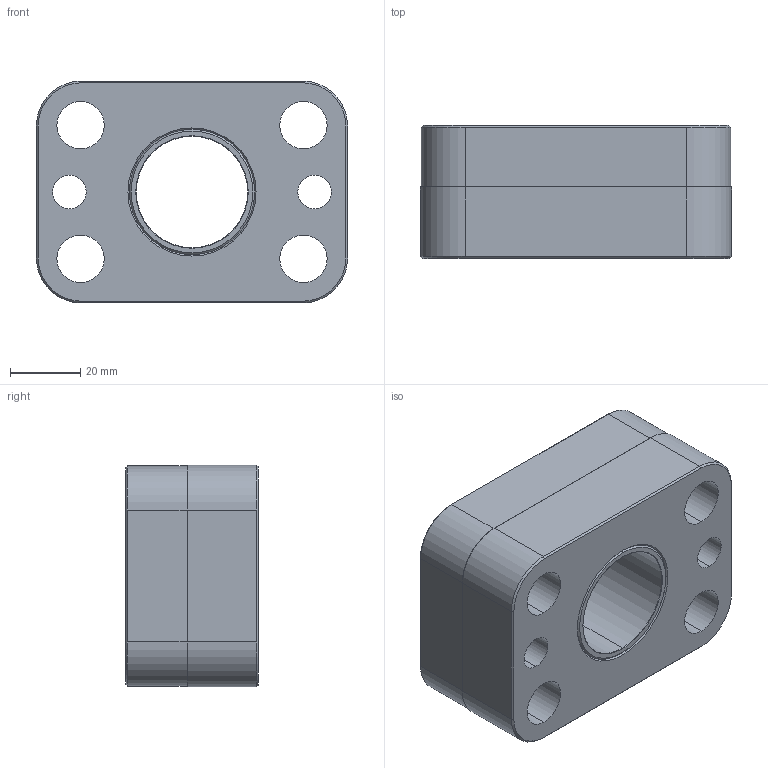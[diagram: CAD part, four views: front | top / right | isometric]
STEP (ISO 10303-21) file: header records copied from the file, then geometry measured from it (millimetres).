
FILE_DESCRIPTION (( 'STEP AP214' ), '1' );
FILE_NAME ('GK120-A-E-Base.STEP', '2010-11-16T13:02:44', ( ' ' ), ( '' ), 'SwSTEP 2.0', 'SolidWorks 2010', '' );
FILE_SCHEMA (( 'AUTOMOTIVE_DESIGN' ));
Length unit declared in the file: inch
Products named in the file (3): GK120-A-E-Base; Bushing-BU-1.25ID-1.485Long; Base-GK120-A_Base-GK120-A-E-NoText
Assembly tree (2 placements, depth 2):
  GK120-A-E-Base
    Bushing-BU-1.25ID-1.485Long
    Base-GK120-A_Base-GK120-A-E-NoText
Bounding box: 88.65 x 37.85 x 63.25 mm (x, y, z)
Volume: 136862.2 mm3; surface area: 40493.4 mm2
Topology: 2 solids, 2 shells, 99 faces, 222 edges, 132 vertices
Faces by surface type: cylinder 38, cone 36, plane 25
Entity records: 3000 total; most frequent: DIRECTION 538, CARTESIAN_POINT 458, ORIENTED_EDGE 444, EDGE_CURVE 222, AXIS2_PLACEMENT_3D 212, VERTEX_POINT 132, EDGE_LOOP 120, VECTOR 114
